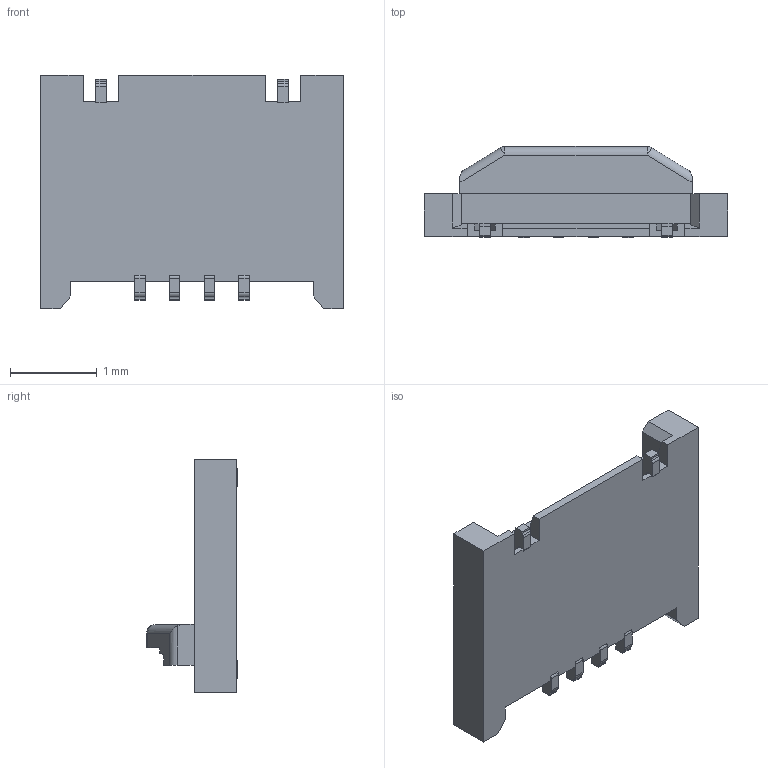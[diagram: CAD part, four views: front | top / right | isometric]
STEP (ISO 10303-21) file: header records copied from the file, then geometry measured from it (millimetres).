
FILE_DESCRIPTION (( 'STEP AP203' ), '1' );
FILE_NAME ('20588-004E-01 ACT OPEN ASSY STEP R2 ALL.STEP', '2014-10-01T04:25:50', ( 'kaihatsu-3dcad-3' ), ( '' ), 'SwSTEP 2.0', 'SolidWorks 2011', '' );
FILE_SCHEMA (( 'CONFIG_CONTROL_DESIGN' ));
Length unit declared in the file: millimetre
Products named in the file (1): 20588-004E-01 ACT OPEN ASSY STEP R2 ALL
Bounding box: 3.5 x 1.05 x 2.7 mm (x, y, z)
Volume: 4.3 mm3; surface area: 26.9 mm2
Topology: 1 solids, 1 shells, 130 faces, 392 edges, 258 vertices
Faces by surface type: plane 101, cylinder 27, sphere 2
Entity records: 4421 total; most frequent: CARTESIAN_POINT 791, ORIENTED_EDGE 780, DIRECTION 698, EDGE_CURVE 390, VECTOR 336, LINE 336, VERTEX_POINT 258, AXIS2_PLACEMENT_3D 181
